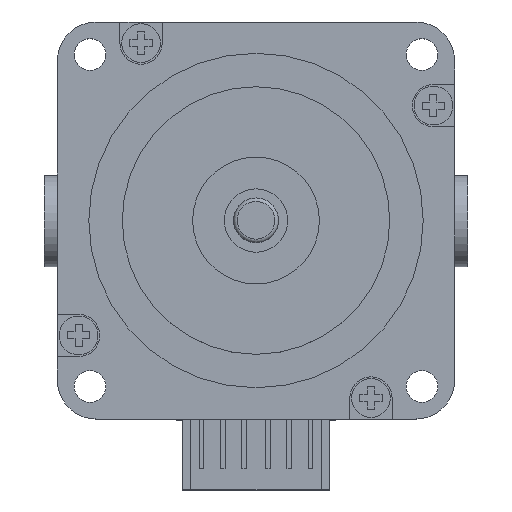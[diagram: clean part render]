
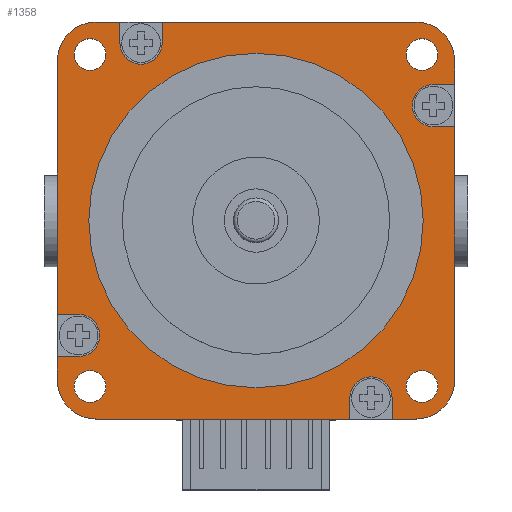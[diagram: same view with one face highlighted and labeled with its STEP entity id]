
A CAD part, top view. The second image highlights one B-rep face of the part: STEP entity #1358.
In plain terms, the highlighted planar face has unit normal (0, 0, 1).
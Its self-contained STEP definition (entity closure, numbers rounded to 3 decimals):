
#521=LINE('',#6992,#985);
#525=LINE('',#7000,#989);
#529=LINE('',#7008,#993);
#530=LINE('',#7013,#994);
#531=LINE('',#7015,#995);
#532=LINE('',#7019,#996);
#533=LINE('',#7021,#997);
#534=LINE('',#7025,#998);
#535=LINE('',#7027,#999);
#536=LINE('',#7031,#1000);
#537=LINE('',#7033,#1001);
#538=LINE('',#7036,#1002);
#539=LINE('',#7040,#1003);
#540=LINE('',#7043,#1004);
#541=LINE('',#7045,#1005);
#542=LINE('',#7049,#1006);
#985=VECTOR('',#5519,1.);
#989=VECTOR('',#5523,1.);
#993=VECTOR('',#5529,1.);
#994=VECTOR('',#5532,1.);
#995=VECTOR('',#5533,1.);
#996=VECTOR('',#5536,1.);
#997=VECTOR('',#5537,1.);
#998=VECTOR('',#5540,1.);
#999=VECTOR('',#5541,1.);
#1000=VECTOR('',#5544,1.);
#1001=VECTOR('',#5545,1.);
#1002=VECTOR('',#5548,1.);
#1003=VECTOR('',#5551,1.);
#1004=VECTOR('',#5554,1.);
#1005=VECTOR('',#5555,1.);
#1006=VECTOR('',#5558,1.);
#1358=ADVANCED_FACE('',(#1799,#1800,#1801,#1802,#1803,#1804),#1622,.T.);
#1622=PLANE('',#4900);
#1799=FACE_BOUND('',#1903,.T.);
#1800=FACE_BOUND('',#1904,.T.);
#1801=FACE_BOUND('',#1905,.T.);
#1802=FACE_BOUND('',#1906,.T.);
#1803=FACE_BOUND('',#1907,.T.);
#1804=FACE_BOUND('',#1908,.T.);
#1903=EDGE_LOOP('',(#2368,#2369,#2370,#2371,#2372,#2373,#2374,#2375,#2376,
#2377,#2378,#2379,#2380,#2381,#2382,#2383,#2384,#2385,#2386,#2387,#2388,
#2389,#2390,#2391));
#1904=EDGE_LOOP('',(#2392));
#1905=EDGE_LOOP('',(#2393));
#1906=EDGE_LOOP('',(#2394));
#1907=EDGE_LOOP('',(#2395));
#1908=EDGE_LOOP('',(#2396));
#2368=ORIENTED_EDGE('',*,*,#4133,.T.);
#2369=ORIENTED_EDGE('',*,*,#4134,.T.);
#2370=ORIENTED_EDGE('',*,*,#4135,.T.);
#2371=ORIENTED_EDGE('',*,*,#4136,.F.);
#2372=ORIENTED_EDGE('',*,*,#4137,.F.);
#2373=ORIENTED_EDGE('',*,*,#4138,.F.);
#2374=ORIENTED_EDGE('',*,*,#4139,.T.);
#2375=ORIENTED_EDGE('',*,*,#4140,.T.);
#2376=ORIENTED_EDGE('',*,*,#4141,.T.);
#2377=ORIENTED_EDGE('',*,*,#4142,.F.);
#2378=ORIENTED_EDGE('',*,*,#4143,.F.);
#2379=ORIENTED_EDGE('',*,*,#4144,.F.);
#2380=ORIENTED_EDGE('',*,*,#4145,.T.);
#2381=ORIENTED_EDGE('',*,*,#4146,.T.);
#2382=ORIENTED_EDGE('',*,*,#4129,.T.);
#2383=ORIENTED_EDGE('',*,*,#4147,.T.);
#2384=ORIENTED_EDGE('',*,*,#4148,.T.);
#2385=ORIENTED_EDGE('',*,*,#4149,.T.);
#2386=ORIENTED_EDGE('',*,*,#4125,.T.);
#2387=ORIENTED_EDGE('',*,*,#4150,.T.);
#2388=ORIENTED_EDGE('',*,*,#4151,.T.);
#2389=ORIENTED_EDGE('',*,*,#4152,.F.);
#2390=ORIENTED_EDGE('',*,*,#4153,.F.);
#2391=ORIENTED_EDGE('',*,*,#4154,.F.);
#2392=ORIENTED_EDGE('',*,*,#4155,.T.);
#2393=ORIENTED_EDGE('',*,*,#4156,.F.);
#2394=ORIENTED_EDGE('',*,*,#4157,.F.);
#2395=ORIENTED_EDGE('',*,*,#4158,.F.);
#2396=ORIENTED_EDGE('',*,*,#4159,.F.);
#3674=VERTEX_POINT('',#6991);
#3675=VERTEX_POINT('',#6993);
#3678=VERTEX_POINT('',#6999);
#3679=VERTEX_POINT('',#7001);
#3682=VERTEX_POINT('',#7009);
#3683=VERTEX_POINT('',#7010);
#3684=VERTEX_POINT('',#7012);
#3685=VERTEX_POINT('',#7014);
#3686=VERTEX_POINT('',#7016);
#3687=VERTEX_POINT('',#7018);
#3688=VERTEX_POINT('',#7020);
#3689=VERTEX_POINT('',#7022);
#3690=VERTEX_POINT('',#7024);
#3691=VERTEX_POINT('',#7026);
#3692=VERTEX_POINT('',#7028);
#3693=VERTEX_POINT('',#7030);
#3694=VERTEX_POINT('',#7032);
#3695=VERTEX_POINT('',#7034);
#3696=VERTEX_POINT('',#7037);
#3697=VERTEX_POINT('',#7039);
#3698=VERTEX_POINT('',#7042);
#3699=VERTEX_POINT('',#7044);
#3700=VERTEX_POINT('',#7046);
#3701=VERTEX_POINT('',#7048);
#3702=VERTEX_POINT('',#7051);
#3703=VERTEX_POINT('',#7053);
#3704=VERTEX_POINT('',#7055);
#3705=VERTEX_POINT('',#7057);
#3706=VERTEX_POINT('',#7059);
#4125=EDGE_CURVE('',#3675,#3674,#521,.T.);
#4129=EDGE_CURVE('',#3679,#3678,#525,.T.);
#4133=EDGE_CURVE('',#3682,#3683,#529,.T.);
#4134=EDGE_CURVE('',#3683,#3684,#4680,.T.);
#4135=EDGE_CURVE('',#3684,#3685,#530,.T.);
#4136=EDGE_CURVE('',#3686,#3685,#531,.T.);
#4137=EDGE_CURVE('',#3687,#3686,#4681,.T.);
#4138=EDGE_CURVE('',#3688,#3687,#532,.T.);
#4139=EDGE_CURVE('',#3688,#3689,#533,.T.);
#4140=EDGE_CURVE('',#3689,#3690,#4682,.T.);
#4141=EDGE_CURVE('',#3690,#3691,#534,.T.);
#4142=EDGE_CURVE('',#3692,#3691,#535,.T.);
#4143=EDGE_CURVE('',#3693,#3692,#4683,.T.);
#4144=EDGE_CURVE('',#3694,#3693,#536,.T.);
#4145=EDGE_CURVE('',#3694,#3695,#537,.T.);
#4146=EDGE_CURVE('',#3695,#3679,#4684,.T.);
#4147=EDGE_CURVE('',#3678,#3696,#538,.T.);
#4148=EDGE_CURVE('',#3696,#3697,#4685,.T.);
#4149=EDGE_CURVE('',#3697,#3675,#539,.T.);
#4150=EDGE_CURVE('',#3674,#3698,#4686,.T.);
#4151=EDGE_CURVE('',#3698,#3699,#540,.T.);
#4152=EDGE_CURVE('',#3700,#3699,#541,.T.);
#4153=EDGE_CURVE('',#3701,#3700,#4687,.T.);
#4154=EDGE_CURVE('',#3682,#3701,#542,.T.);
#4155=EDGE_CURVE('',#3702,#3702,#4688,.T.);
#4156=EDGE_CURVE('',#3703,#3703,#4689,.T.);
#4157=EDGE_CURVE('',#3704,#3704,#4690,.T.);
#4158=EDGE_CURVE('',#3705,#3705,#4691,.T.);
#4159=EDGE_CURVE('',#3706,#3706,#4692,.T.);
#4680=CIRCLE('',#4887,5.5);
#4681=CIRCLE('',#4888,3.);
#4682=CIRCLE('',#4889,5.5);
#4683=CIRCLE('',#4890,3.);
#4684=CIRCLE('',#4891,5.5);
#4685=CIRCLE('',#4892,3.);
#4686=CIRCLE('',#4893,5.5);
#4687=CIRCLE('',#4894,3.);
#4688=CIRCLE('',#4895,23.75);
#4689=CIRCLE('',#4896,2.25);
#4690=CIRCLE('',#4897,2.25);
#4691=CIRCLE('',#4898,2.25);
#4692=CIRCLE('',#4899,2.25);
#4887=AXIS2_PLACEMENT_3D('',#7011,#5530,#5531);
#4888=AXIS2_PLACEMENT_3D('',#7017,#5534,#5535);
#4889=AXIS2_PLACEMENT_3D('',#7023,#5538,#5539);
#4890=AXIS2_PLACEMENT_3D('',#7029,#5542,#5543);
#4891=AXIS2_PLACEMENT_3D('',#7035,#5546,#5547);
#4892=AXIS2_PLACEMENT_3D('',#7038,#5549,#5550);
#4893=AXIS2_PLACEMENT_3D('',#7041,#5552,#5553);
#4894=AXIS2_PLACEMENT_3D('',#7047,#5556,#5557);
#4895=AXIS2_PLACEMENT_3D('',#7050,#5559,#5560);
#4896=AXIS2_PLACEMENT_3D('',#7052,#5561,#5562);
#4897=AXIS2_PLACEMENT_3D('',#7054,#5563,#5564);
#4898=AXIS2_PLACEMENT_3D('',#7056,#5565,#5566);
#4899=AXIS2_PLACEMENT_3D('',#7058,#5567,#5568);
#4900=AXIS2_PLACEMENT_3D('',#7060,#5569,#5570);
#5519=DIRECTION('',(-1.,0.,0.));
#5523=DIRECTION('',(-1.,0.,0.));
#5529=DIRECTION('',(0.,-1.,0.));
#5530=DIRECTION('',(0.,0.,1.));
#5531=DIRECTION('',(1.,0.,0.));
#5532=DIRECTION('',(1.,0.,0.));
#5533=DIRECTION('',(0.,-1.,0.));
#5534=DIRECTION('',(0.,0.,1.));
#5535=DIRECTION('',(-1.,0.,0.));
#5536=DIRECTION('',(0.,1.,0.));
#5537=DIRECTION('',(1.,0.,0.));
#5538=DIRECTION('',(0.,0.,1.));
#5539=DIRECTION('',(1.,0.,0.));
#5540=DIRECTION('',(0.,1.,0.));
#5541=DIRECTION('',(1.,0.,0.));
#5542=DIRECTION('',(0.,0.,1.));
#5543=DIRECTION('',(0.,-1.,0.));
#5544=DIRECTION('',(-1.,0.,0.));
#5545=DIRECTION('',(0.,1.,0.));
#5546=DIRECTION('',(0.,0.,1.));
#5547=DIRECTION('',(1.,0.,0.));
#5548=DIRECTION('',(0.,-1.,0.));
#5549=DIRECTION('',(0.,0.,-1.));
#5550=DIRECTION('',(1.,0.,0.));
#5551=DIRECTION('',(0.,1.,0.));
#5552=DIRECTION('',(0.,0.,1.));
#5553=DIRECTION('',(1.,0.,0.));
#5554=DIRECTION('',(0.,-1.,0.));
#5555=DIRECTION('',(-1.,0.,0.));
#5556=DIRECTION('',(0.,0.,1.));
#5557=DIRECTION('',(0.,1.,0.));
#5558=DIRECTION('',(1.,0.,0.));
#5559=DIRECTION('',(0.,0.,-1.));
#5560=DIRECTION('',(1.,0.,0.));
#5561=DIRECTION('',(0.,0.,1.));
#5562=DIRECTION('',(1.,0.,0.));
#5563=DIRECTION('',(0.,0.,1.));
#5564=DIRECTION('',(1.,0.,0.));
#5565=DIRECTION('',(0.,0.,1.));
#5566=DIRECTION('',(1.,0.,0.));
#5567=DIRECTION('',(0.,0.,1.));
#5568=DIRECTION('',(1.,0.,0.));
#5569=DIRECTION('',(0.,0.,1.));
#5570=DIRECTION('',(1.,0.,0.));
#6991=CARTESIAN_POINT('',(-22.7,28.2,0.));
#6992=CARTESIAN_POINT('',(28.2,28.2,0.));
#6993=CARTESIAN_POINT('',(-19.324,28.2,0.));
#6999=CARTESIAN_POINT('',(-13.324,28.2,0.));
#7000=CARTESIAN_POINT('',(28.2,28.2,0.));
#7001=CARTESIAN_POINT('',(22.7,28.2,0.));
#7008=CARTESIAN_POINT('',(-28.2,28.2,0.));
#7009=CARTESIAN_POINT('',(-28.2,-19.324,0.));
#7010=CARTESIAN_POINT('',(-28.2,-22.7,0.));
#7011=CARTESIAN_POINT('',(-22.7,-22.7,0.));
#7012=CARTESIAN_POINT('',(-22.7,-28.2,0.));
#7013=CARTESIAN_POINT('',(-28.2,-28.2,0.));
#7014=CARTESIAN_POINT('',(13.324,-28.2,0.));
#7015=CARTESIAN_POINT('',(13.324,-25.2,0.));
#7016=CARTESIAN_POINT('',(13.324,-25.2,0.));
#7017=CARTESIAN_POINT('',(16.324,-25.2,0.));
#7018=CARTESIAN_POINT('',(19.324,-25.2,0.));
#7019=CARTESIAN_POINT('',(19.324,-28.2,0.));
#7020=CARTESIAN_POINT('',(19.324,-28.2,0.));
#7021=CARTESIAN_POINT('',(-28.2,-28.2,0.));
#7022=CARTESIAN_POINT('',(22.7,-28.2,0.));
#7023=CARTESIAN_POINT('',(22.7,-22.7,0.));
#7024=CARTESIAN_POINT('',(28.2,-22.7,0.));
#7025=CARTESIAN_POINT('',(28.2,-28.2,0.));
#7026=CARTESIAN_POINT('',(28.2,13.324,0.));
#7027=CARTESIAN_POINT('',(25.2,13.324,0.));
#7028=CARTESIAN_POINT('',(25.2,13.324,0.));
#7029=CARTESIAN_POINT('',(25.2,16.324,0.));
#7030=CARTESIAN_POINT('',(25.2,19.324,0.));
#7031=CARTESIAN_POINT('',(28.2,19.324,0.));
#7032=CARTESIAN_POINT('',(28.2,19.324,0.));
#7033=CARTESIAN_POINT('',(28.2,-28.2,0.));
#7034=CARTESIAN_POINT('',(28.2,22.7,0.));
#7035=CARTESIAN_POINT('',(22.7,22.7,0.));
#7036=CARTESIAN_POINT('',(-13.324,28.2,0.));
#7037=CARTESIAN_POINT('',(-13.324,25.2,0.));
#7038=CARTESIAN_POINT('',(-16.324,25.2,0.));
#7039=CARTESIAN_POINT('',(-19.324,25.2,0.));
#7040=CARTESIAN_POINT('',(-19.324,25.2,0.));
#7041=CARTESIAN_POINT('',(-22.7,22.7,0.));
#7042=CARTESIAN_POINT('',(-28.2,22.7,0.));
#7043=CARTESIAN_POINT('',(-28.2,28.2,0.));
#7044=CARTESIAN_POINT('',(-28.2,-13.324,0.));
#7045=CARTESIAN_POINT('',(-25.2,-13.324,0.));
#7046=CARTESIAN_POINT('',(-25.2,-13.324,0.));
#7047=CARTESIAN_POINT('',(-25.2,-16.324,0.));
#7048=CARTESIAN_POINT('',(-25.2,-19.324,0.));
#7049=CARTESIAN_POINT('',(-28.2,-19.324,0.));
#7050=CARTESIAN_POINT('',(0.,0.,0.));
#7051=CARTESIAN_POINT('',(23.75,0.,0.));
#7052=CARTESIAN_POINT('',(23.57,-23.57,0.));
#7053=CARTESIAN_POINT('',(25.82,-23.57,0.));
#7054=CARTESIAN_POINT('',(23.57,23.57,0.));
#7055=CARTESIAN_POINT('',(25.82,23.57,0.));
#7056=CARTESIAN_POINT('',(-23.57,23.57,0.));
#7057=CARTESIAN_POINT('',(-21.32,23.57,0.));
#7058=CARTESIAN_POINT('',(-23.57,-23.57,0.));
#7059=CARTESIAN_POINT('',(-21.32,-23.57,0.));
#7060=CARTESIAN_POINT('',(28.2,-28.2,0.));
